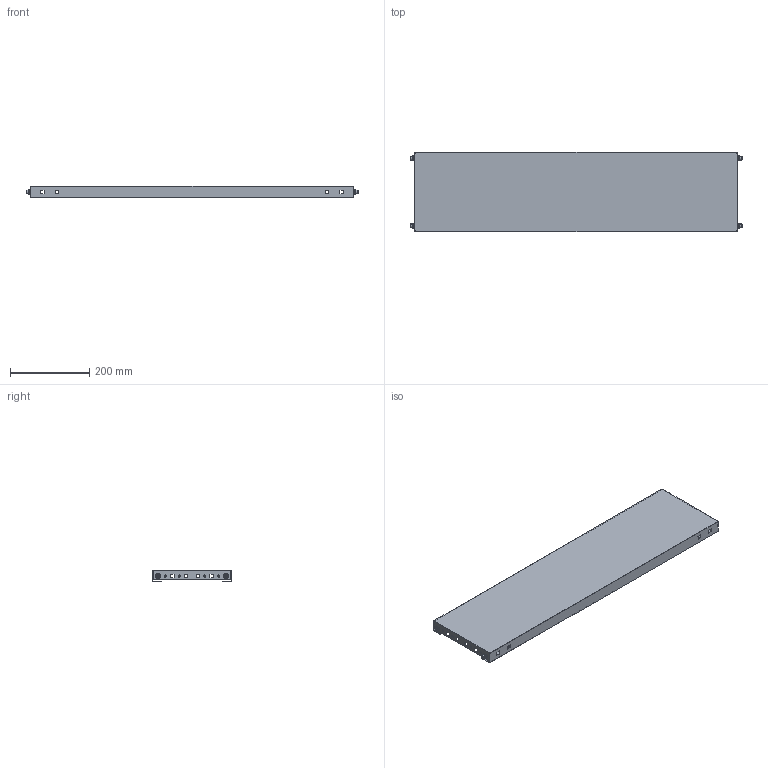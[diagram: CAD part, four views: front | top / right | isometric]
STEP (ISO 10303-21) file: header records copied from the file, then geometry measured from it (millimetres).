
FILE_DESCRIPTION(('Open CASCADE Model'),'2;1');
FILE_NAME('Open CASCADE Shape Model','2025-02-07T17:53:38',('Author'),( 'Open CASCADE'),'Open CASCADE STEP processor 7.8','Open CASCADE 7.8' ,'Unknown');
FILE_SCHEMA(('AUTOMOTIVE_DESIGN { 1 0 10303 214 1 1 1 1 }'));
Length unit declared in the file: millimetre
Products named in the file (5): Compound1; Solid1; Solid2; Solid3; Solid4
Assembly tree (13 placements, depth 2):
  Compound1
    Solid1
    Solid2  x4
    Solid3  x4
    Solid4  x4
Bounding box: 836.2 x 200 x 30 mm (x, y, z)
Volume: 379825.4 mm3; surface area: 512879.7 mm2
Topology: 13 solids, 13 shells, 780 faces, 2190 edges, 1424 vertices
Faces by surface type: plane 402, cylinder 314, cone 32, bspline 16, torus 16
Full cylindrical faces by diameter (mm): 5.5 x8, 6.5 x66
Entity records: 25370 total; most frequent: CARTESIAN_POINT 15864, ORIENTED_EDGE 1980, DIRECTION 1824, EDGE_CURVE 990, VERTEX_POINT 653, AXIS2_PLACEMENT_3D 611, LINE 602, VECTOR 602
